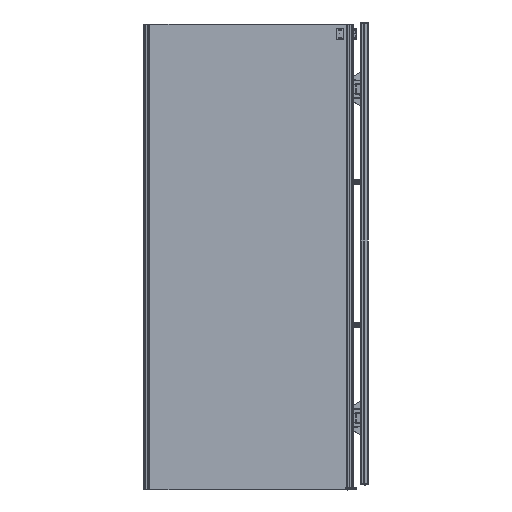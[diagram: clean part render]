
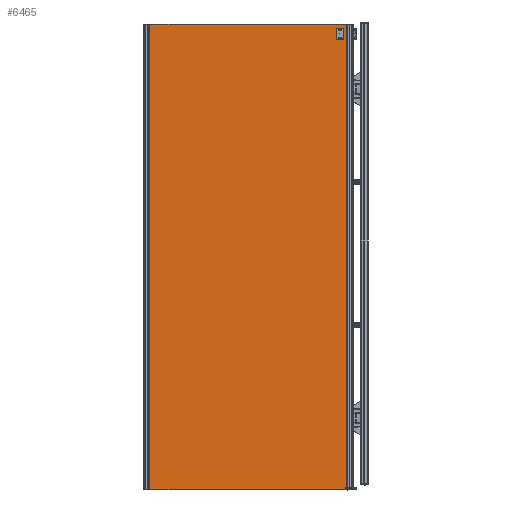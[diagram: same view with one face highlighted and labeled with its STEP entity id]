
A CAD part, front view. The second image highlights one B-rep face of the part: STEP entity #6465.
In plain terms, the highlighted planar face has unit normal (0, -1, 0).
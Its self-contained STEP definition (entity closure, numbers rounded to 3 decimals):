
#6465=ADVANCED_FACE('',(#11504,#23971),#9584,.T.);
#9584=PLANE('',#65741);
#11504=FACE_OUTER_BOUND('',#25774,.T.);
#15367=LINE('',#95768,#20133);
#15369=LINE('',#95772,#20135);
#15371=LINE('',#95776,#20137);
#15373=LINE('',#95780,#20139);
#15374=LINE('',#95785,#20140);
#15375=LINE('',#95789,#20141);
#20133=VECTOR('',#75841,1.);
#20135=VECTOR('',#75845,1.);
#20137=VECTOR('',#75849,1.);
#20139=VECTOR('',#75853,1.);
#20140=VECTOR('',#75858,1.);
#20141=VECTOR('',#75861,1.);
#23971=FACE_BOUND('',#25775,.T.);
#25774=EDGE_LOOP('',(#33516,#33517,#33518,#33519));
#25775=EDGE_LOOP('',(#33520,#33521,#33522,#33523));
#33516=ORIENTED_EDGE('',*,*,#54645,.T.);
#33517=ORIENTED_EDGE('',*,*,#54643,.T.);
#33518=ORIENTED_EDGE('',*,*,#54641,.T.);
#33519=ORIENTED_EDGE('',*,*,#54639,.T.);
#33520=ORIENTED_EDGE('',*,*,#54646,.F.);
#33521=ORIENTED_EDGE('',*,*,#54647,.F.);
#33522=ORIENTED_EDGE('',*,*,#54648,.F.);
#33523=ORIENTED_EDGE('',*,*,#54649,.F.);
#48153=VERTEX_POINT('',#95767);
#48154=VERTEX_POINT('',#95769);
#48155=VERTEX_POINT('',#95773);
#48156=VERTEX_POINT('',#95777);
#48157=VERTEX_POINT('',#95783);
#48158=VERTEX_POINT('',#95784);
#48159=VERTEX_POINT('',#95786);
#48160=VERTEX_POINT('',#95788);
#54639=EDGE_CURVE('',#48154,#48153,#15367,.T.);
#54641=EDGE_CURVE('',#48155,#48154,#15369,.T.);
#54643=EDGE_CURVE('',#48156,#48155,#15371,.T.);
#54645=EDGE_CURVE('',#48153,#48156,#15373,.T.);
#54646=EDGE_CURVE('',#48157,#48158,#61964,.T.);
#54647=EDGE_CURVE('',#48159,#48157,#15374,.T.);
#54648=EDGE_CURVE('',#48160,#48159,#61965,.T.);
#54649=EDGE_CURVE('',#48158,#48160,#15375,.T.);
#61964=CIRCLE('',#65739,4.);
#61965=CIRCLE('',#65740,4.);
#65739=AXIS2_PLACEMENT_3D('',#95782,#75856,#75857);
#65740=AXIS2_PLACEMENT_3D('',#95787,#75859,#75860);
#65741=AXIS2_PLACEMENT_3D('',#95790,#75862,#75863);
#75841=DIRECTION('',(1.,0.,0.));
#75845=DIRECTION('',(0.,0.,-1.));
#75849=DIRECTION('',(-1.,0.,0.));
#75853=DIRECTION('',(0.,0.,1.));
#75856=DIRECTION('',(0.,-1.,0.));
#75857=DIRECTION('',(0.,0.,-1.));
#75858=DIRECTION('',(-1.,0.,0.));
#75859=DIRECTION('',(0.,-1.,0.));
#75860=DIRECTION('',(0.,0.,-1.));
#75861=DIRECTION('',(1.,0.,0.));
#75862=DIRECTION('',(0.,-1.,0.));
#75863=DIRECTION('',(1.,0.,0.));
#95767=CARTESIAN_POINT('',(866.723,-880.751,0.));
#95768=CARTESIAN_POINT('',(3.723,-880.751,0.));
#95769=CARTESIAN_POINT('',(23.723,-880.751,0.));
#95772=CARTESIAN_POINT('',(23.723,-880.751,0.));
#95773=CARTESIAN_POINT('',(23.723,-880.751,1950.));
#95776=CARTESIAN_POINT('',(3.723,-880.751,1950.));
#95777=CARTESIAN_POINT('',(866.723,-880.751,1950.));
#95780=CARTESIAN_POINT('',(866.723,-880.751,0.));
#95782=CARTESIAN_POINT('',(823.223,-880.751,1910.));
#95783=CARTESIAN_POINT('',(823.223,-880.751,1914.));
#95784=CARTESIAN_POINT('',(823.223,-880.751,1906.));
#95785=CARTESIAN_POINT('',(835.223,-880.751,1914.));
#95786=CARTESIAN_POINT('',(831.223,-880.751,1914.));
#95787=CARTESIAN_POINT('',(831.223,-880.751,1910.));
#95788=CARTESIAN_POINT('',(831.223,-880.751,1906.));
#95789=CARTESIAN_POINT('',(819.223,-880.751,1906.));
#95790=CARTESIAN_POINT('',(3.723,-880.751,0.));
